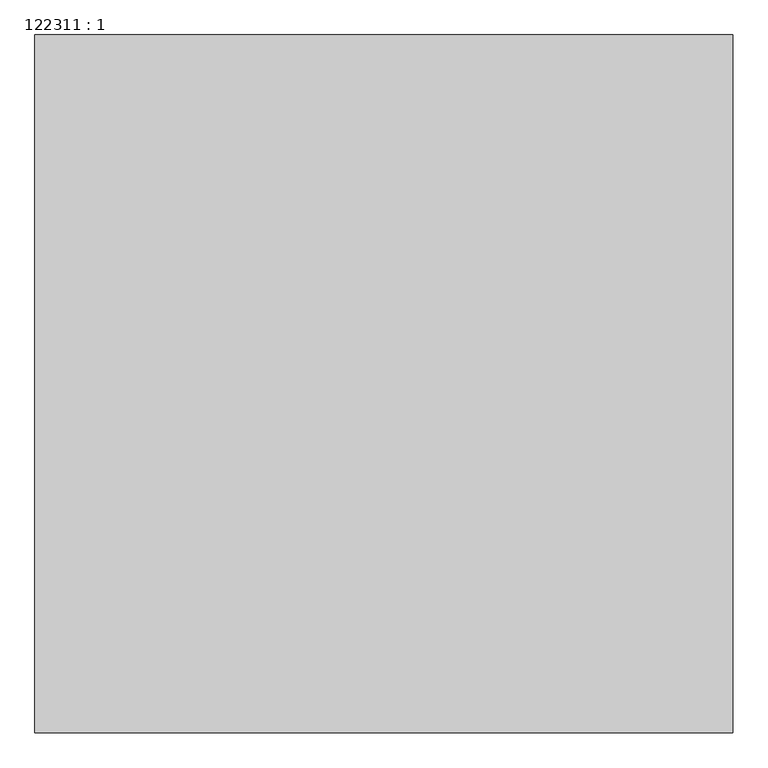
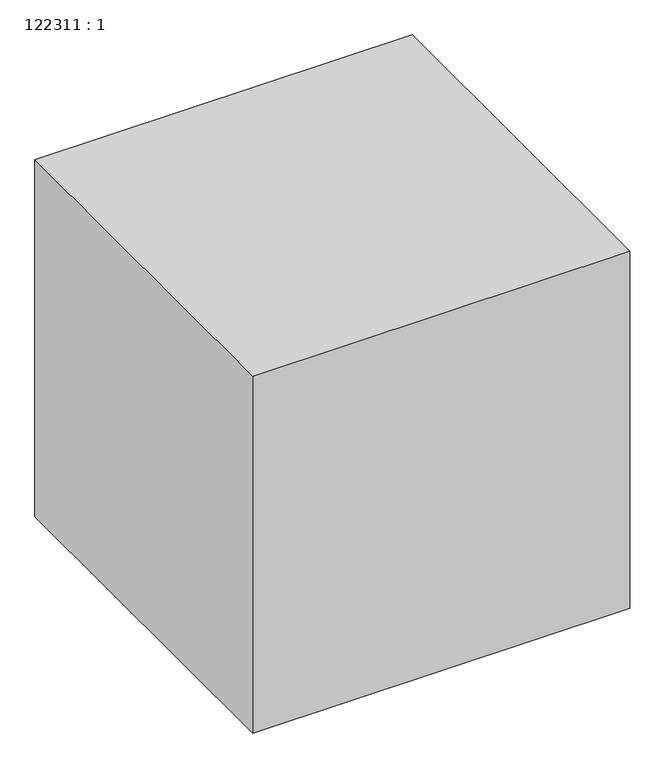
"""IFC4 building model written with IfcOpenShell, lengths in millimetres: proxy geometry, 122311 : 1."""

from ifc_helpers import new_model, si_unit, origin, origin_with_axes, place, context, project, spatial, polyline, outline, extrude, source, transform, mapped, element, save


def proxy_122311_1_c1ad2dc2(model_context):
    return source(origin(), model_context, "Body", "SweptSolid", [
        extrude(outline(polyline([(-20307.9756708, -664.7705528), (-20307.9756708, -1664.7705528), (-21307.9756708, -1664.7705528), (-21307.9756708, -664.7705528), (-20307.9756708, -664.7705528)])), origin_with_axes(), (0.0, 0.0, 1.0), 1000.0),
    ])


if __name__ == "__main__":
    model = new_model("IFC4")
    model_context = context("Model", 3, world=origin())
    ifc_project = project(units=[si_unit("LENGTHUNIT", "METRE", prefix="MILLI")], contexts=[model_context])
    site = spatial("IfcSite", under=ifc_project)
    building = spatial("IfcBuilding", under=site)
    placement = place(None, origin())
    proxy_122311_1_shape = proxy_122311_1_c1ad2dc2(model_context)
    element("IfcBuildingElementProxy", 1, Name="122311 : 1", ObjectType="122311 : 1", at=placement, inside=building, context=model_context, shape_type="MappedRepresentation", body=[
        mapped(proxy_122311_1_shape, transform((0.0, 0.0, 0.0), x_axis=(1.0, 0.0, 0.0), y_axis=(0.0, 1.0, 0.0), z_axis=(0.0, 0.0, 1.0))),
    ])
    save(model, "model.ifc")
